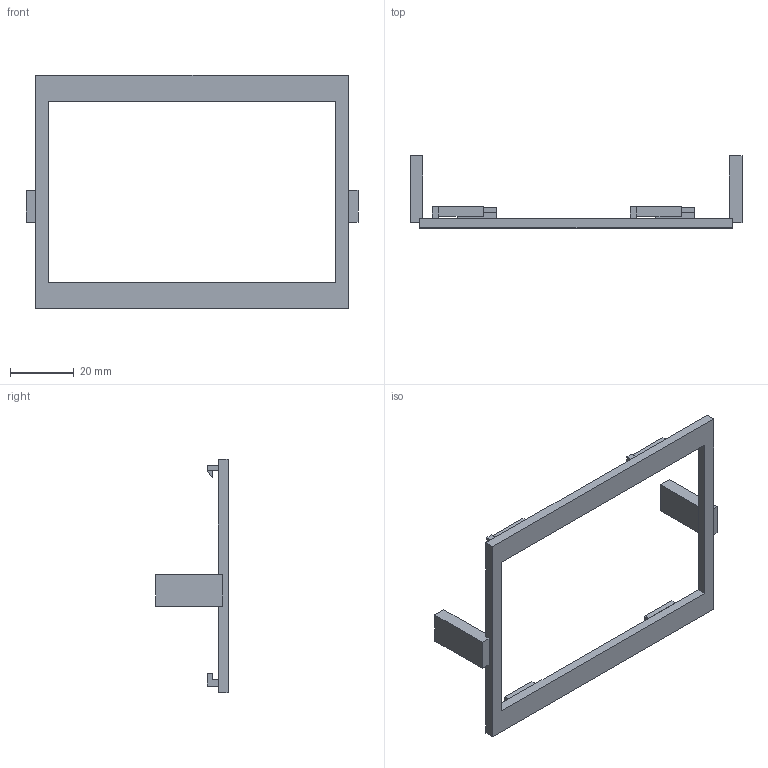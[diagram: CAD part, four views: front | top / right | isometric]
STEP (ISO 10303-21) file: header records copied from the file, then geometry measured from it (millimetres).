
FILE_DESCRIPTION(('Open CASCADE Model'),'2;1');
FILE_NAME('Open CASCADE Shape Model','2026-11-04T18:29:40',('Author'),( 'Open CASCADE'),'Open CASCADE STEP processor 7.8','Open CASCADE 7.8' ,'Unknown');
FILE_SCHEMA(('AUTOMOTIVE_DESIGN { 1 0 10303 214 1 1 1 1 }'));
Length unit declared in the file: millimetre
Products named in the file (1): Open CASCADE STEP translator 7.8 2
Bounding box: 104 x 22.6 x 73 mm (x, y, z)
Volume: 8110.9 mm3; surface area: 7817.7 mm2
Topology: 1 solids, 1 shells, 58 faces, 154 edges, 102 vertices
Faces by surface type: plane 58
Entity records: 3700 total; most frequent: CARTESIAN_POINT 701, DIRECTION 502, LINE 384, VECTOR 384, ORIENTED_EDGE 308, PCURVE 308, DEFINITIONAL_REPRESENTATION 308, EDGE_CURVE 154
